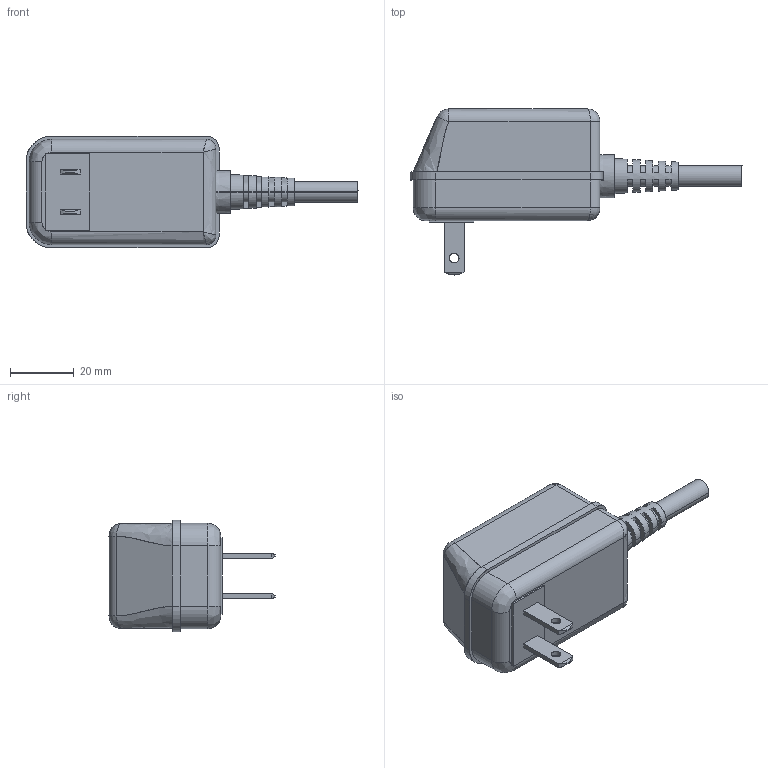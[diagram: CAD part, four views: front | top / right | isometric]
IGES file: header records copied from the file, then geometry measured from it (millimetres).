
Start section: SolidWorks IGES file using analytic representation for surfaces
Bounding box: 104 x 52 x 35 mm (x, y, z)
Surface area: 11321.1 mm2 (no closed solid volume)
Topology: 0 solids, 0 shells, 124 faces, 1653 edges, 1647 vertices
Faces by surface type: bspline 80, revolution 44
